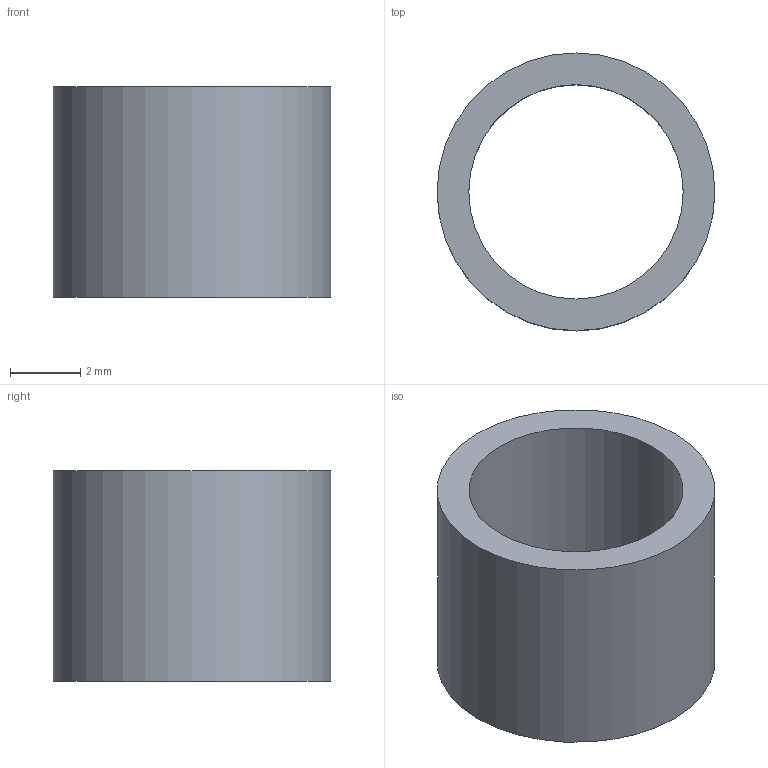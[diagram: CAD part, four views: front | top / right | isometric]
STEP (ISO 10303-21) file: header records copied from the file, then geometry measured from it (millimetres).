
FILE_DESCRIPTION(/* description */ ('CANON ISOLANT','CAx-IF Rec.Pracs.---Representation and Presentation of Product Manufacturing Information (PMI)---4.0---2014-10-13'),/* implementation_level */ '2;1');
FILE_NAME(/* name */ 'vv810010-A.stp',/* time_stamp */ '2025-09-29T10:10:32+02:00',/* author */ ('akrim'),/* organization */ (''),/* preprocessor_version */ 'ST-DEVELOPER v20',/* originating_system */ 'Autodesk Inventor 2025',/* authorisation */ '');
FILE_SCHEMA (('AP242_MANAGED_MODEL_BASED_3D_ENGINEERING_MIM_LF { 1 0 10303 442 1 1 4 }'));
Length unit declared in the file: millimetre
Products named in the file (1): VICTOR.V.81.00.10
Bounding box: 7.9 x 7.9 x 6 mm (x, y, z)
Volume: 118.8 mm3; surface area: 303.5 mm2
Topology: 1 solids, 1 shells, 4 faces, 6 edges, 4 vertices
Faces by surface type: plane 2, cylinder 2
Full cylindrical faces by diameter (mm): 6.1 x1, 7.9 x1
Entity records: 204 total; most frequent: DIRECTION 32, CARTESIAN_POINT 23, AXIS2_PLACEMENT_3D 15, ORIENTED_EDGE 12, STYLED_ITEM 6, EDGE_LOOP 6, CIRCLE 6, EDGE_CURVE 6
